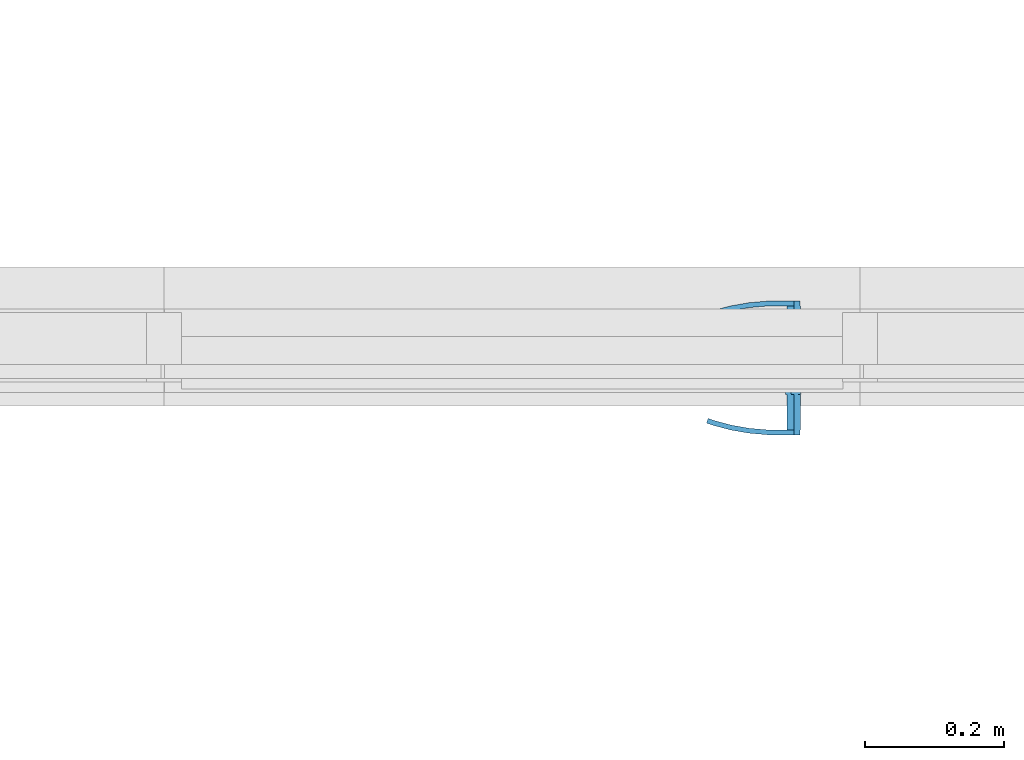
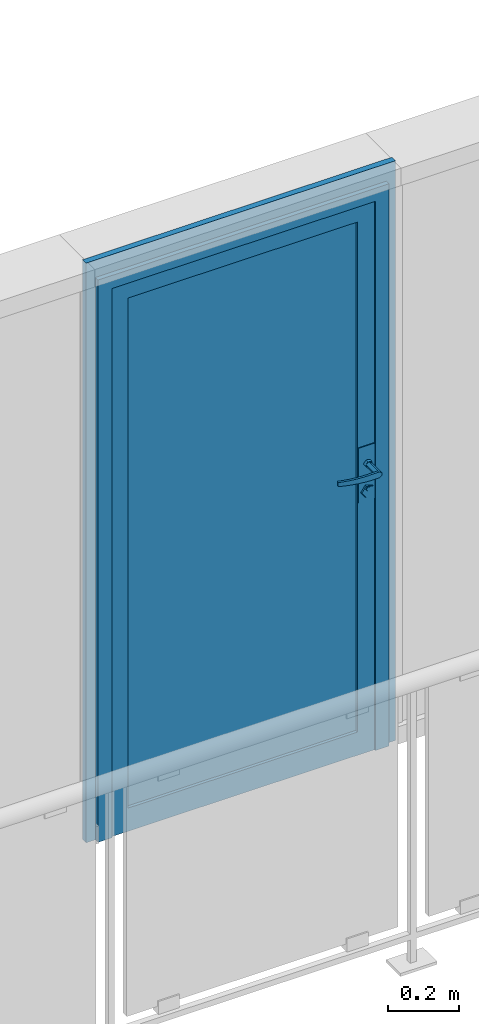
# One storey, part 7 of 7: 1 plate, 1 element without a shape of its own.
"""IFC4 building model written with IfcOpenShell, lengths in millimetres."""

import ifcopenshell
import ifcopenshell.guid

model = None  # the IFC model being written
_history = None  # IfcOwnerHistory: only IFC2X3 demands one
_inside = {}  # id of a spatial element -> (the spatial element, [elements in it])
_under = {}  # id of a project, library or spatial element -> (it, [spatial elements below it])
_declared = {}  # id of a project -> (the project, [libraries it declares])
_typed = {}  # id of a type object -> (the type object, [elements of that type])
_made_of = {}  # id of a material, layer set ... -> (it, [elements and type objects made of it])


def new_model(schema):
    """Start an empty IFC model of exactly this schema.

    Asked for "IFC4X3", IfcOpenShell would pick the latest addendum, in which some entities
    have other attributes; the version numbers below select the first issue.
    IFC2X3 requires an IfcOwnerHistory on every rooted entity: one is made here for all.
    """
    global model, _history
    if schema == "IFC4X3":
        model = ifcopenshell.file(schema_version=(4, 3, 0, 0))
    else:
        model = ifcopenshell.file(schema=schema)
    _inside.clear()
    _under.clear()
    _declared.clear()
    _typed.clear()
    _made_of.clear()
    _history = None
    if model.schema == "IFC2X3":
        org = make("IfcOrganization", Name="unknown")
        user = make(
            "IfcPersonAndOrganization",
            ThePerson=make("IfcPerson", FamilyName="unknown"),
            TheOrganization=org,
        )
        app = make(
            "IfcApplication",
            ApplicationDeveloper=org,
            Version="unknown",
            ApplicationFullName="unknown",
            ApplicationIdentifier="unknown",
        )
        _history = make(
            "IfcOwnerHistory",
            OwningUser=user,
            OwningApplication=app,
            ChangeAction="ADDED",
            CreationDate=0,
        )
    return model


def make(cls, **values):
    """One entity of the class cls with the attributes given. An attribute that is None is left unset."""
    return model.create_entity(
        cls, **{name: value for name, value in values.items() if value is not None}
    )


def entity(cls, *values):
    """Any entity or typed value of the class cls, its attributes in the order of the schema. None: left unset."""
    e = model.create_entity(cls)
    for i, value in enumerate(values):
        if value is not None:
            e[i] = value
    return e


def rooted(cls, **values):
    """An entity with a GlobalId (a new one), such as an element, a storey or a relation."""
    return make(cls, GlobalId=ifcopenshell.guid.new(), OwnerHistory=_history, **values)


def si_unit(unit_type, name, prefix=None):
    """IfcSIUnit, for example si_unit("LENGTHUNIT", "METRE", prefix="MILLI")."""
    return make("IfcSIUnit", UnitType=unit_type, Prefix=prefix, Name=name)


def converted_unit(unit_type, name, factor, base, dimensions=None, offset=None):
    """IfcConversionBasedUnit, such as the inch: factor (a typed value) times the base unit."""
    return make(
        "IfcConversionBasedUnit"
        if offset is None
        else "IfcConversionBasedUnitWithOffset",
        ConversionOffset=offset,
        Dimensions=None
        if dimensions is None
        else entity("IfcDimensionalExponents", *dimensions),
        UnitType=unit_type,
        Name=name,
        ConversionFactor=make(
            "IfcMeasureWithUnit", ValueComponent=factor, UnitComponent=base
        ),
    )


def derived_unit(unit_type, elements):
    """IfcDerivedUnit: a product of units, each with its exponent."""
    return make(
        "IfcDerivedUnit",
        Elements=[
            make("IfcDerivedUnitElement", Unit=unit, Exponent=power)
            for unit, power in elements
        ],
        UnitType=unit_type,
    )


def assignment(units):
    """IfcUnitAssignment: the units of a project."""
    return None if units is None else make("IfcUnitAssignment", Units=units)


def point(xyz):
    """IfcCartesianPoint."""
    return None if xyz is None else make("IfcCartesianPoint", Coordinates=xyz)


def direction(xyz):
    """IfcDirection."""
    return None if xyz is None else make("IfcDirection", DirectionRatios=xyz)


def frame(location, z_axis=None, x_axis=None):
    """IfcAxis2Placement3D, a coordinate frame: its origin and axes. An axis left out is left unset."""
    return make(
        "IfcAxis2Placement3D",
        Location=point(location),
        Axis=direction(z_axis),
        RefDirection=direction(x_axis),
    )


def origin_with_axes():
    """The frame at (0, 0, 0) with the z axis (0, 0, 1) and the x axis (1, 0, 0) written out."""
    return frame((0.0, 0.0, 0.0), z_axis=(0.0, 0.0, 1.0), x_axis=(1.0, 0.0, 0.0))


def place(relative_to, where):
    """IfcLocalPlacement: puts the frame where relative to a parent placement (None: the world)."""
    return make(
        "IfcLocalPlacement", PlacementRelTo=relative_to, RelativePlacement=where
    )


def context(
    kind, dimensions, precision=None, world=None, true_north=None, identifier=None
):
    """IfcGeometricRepresentationContext, for example the 3D "Model" context."""
    return make(
        "IfcGeometricRepresentationContext",
        ContextIdentifier=identifier,
        ContextType=kind,
        CoordinateSpaceDimension=dimensions,
        Precision=precision,
        WorldCoordinateSystem=world,
        TrueNorth=true_north,
    )


def subcontext(parent, identifier, kind, view, scale=None):
    """IfcGeometricRepresentationSubContext, for example "Body" below "Model"."""
    return make(
        "IfcGeometricRepresentationSubContext",
        ContextIdentifier=identifier,
        ContextType=kind,
        ParentContext=parent,
        TargetScale=scale,
        TargetView=view,
    )


def project(units=None, contexts=None):
    """IfcProject with its units and contexts."""
    return rooted(
        "IfcProject",
        Name="project",
        RepresentationContexts=contexts,
        UnitsInContext=assignment(units),
    )


def spatial(cls, under=None, at=None, **own):
    """A site, building, storey or space (cls), placed at a placement, below another one or the project."""
    s = rooted(cls, ObjectPlacement=at, **own)
    if under is not None:
        _under.setdefault(under.id(), (under, []))[1].append(s)
    return s


def point_list(points):
    """IfcCartesianPointList2D or 3D."""
    cls = (
        "IfcCartesianPointList2D" if len(points[0]) == 2 else "IfcCartesianPointList3D"
    )
    return make(cls, CoordList=points)


def polygons(points, faces, closed=None, point_numbers=None):
    """IfcPolygonalFaceSet: a face is its outer loop, then its inner loops; points numbered from 1."""
    made = []
    for loops in faces:
        if len(loops) == 1:
            made.append(make("IfcIndexedPolygonalFace", CoordIndex=loops[0]))
        else:
            made.append(
                make(
                    "IfcIndexedPolygonalFaceWithVoids",
                    CoordIndex=loops[0],
                    InnerCoordIndices=loops[1:],
                )
            )
    return make(
        "IfcPolygonalFaceSet",
        Coordinates=point_list(points),
        Closed=closed,
        Faces=made,
        PnIndex=point_numbers,
    )


def shape(context_of_items, identifier, shape_type, items):
    """IfcShapeRepresentation: the items that make up one representation, for example the "Body"."""
    return make(
        "IfcShapeRepresentation",
        ContextOfItems=context_of_items,
        RepresentationIdentifier=identifier,
        RepresentationType=shape_type,
        Items=items,
    )


def material(Name=None, Category=None):
    """IfcMaterial."""
    return make("IfcMaterial", Name=Name, Category=Category)


def constituent(of_material, Name=None, Category=None, fraction=None):
    """IfcMaterialConstituent: one of the materials an element consists of."""
    return make(
        "IfcMaterialConstituent",
        Name=Name,
        Material=of_material,
        Fraction=fraction,
        Category=Category,
    )


def constituent_set(constituents=None, Name=None):
    """IfcMaterialConstituentSet."""
    return make(
        "IfcMaterialConstituentSet", Name=Name, MaterialConstituents=constituents
    )


def made_of(thing, what):
    """Note that an element or type object is made of a material, layer set ...; save() writes the relation."""
    if what is not None:
        _made_of.setdefault(what.id(), (what, []))[1].append(thing)
    return thing


def type_object(cls, material=None, **own):
    """A type object (cls), such as IfcWallType, which elements share."""
    return made_of(rooted(cls, **own), material)


def element(
    cls,
    number,
    at=None,
    inside=None,
    cuts=None,
    type_object=None,
    material=None,
    context=None,
    identifier="Body",
    shape_type=None,
    held_by="IfcProductDefinitionShape",
    body=None,
    shapes=None,
    **own,
):
    """One element of the class cls, such as IfcWall. Its Tag is "e" and its number.

    at: its placement. inside: the storey or other place that contains it. cuts: it is an
    opening in that element (IfcRelVoidsElement). A single representation is given by context,
    identifier, shape_type and body (its items); several are given by shapes. held_by: the class
    of the entity that holds the representations. save() writes the other relations.
    """
    e = rooted(cls, Tag="e%d" % number, ObjectPlacement=at, **own)
    if body is not None:
        shapes = [shape(context, identifier, shape_type, body)]
    if shapes is not None:
        e.Representation = make(held_by, Representations=shapes)
    if inside is not None:
        _inside.setdefault(inside.id(), (inside, []))[1].append(e)
    if cuts is not None:
        rooted(
            "IfcRelVoidsElement", RelatingBuildingElement=cuts, RelatedOpeningElement=e
        )
    if type_object is not None:
        _typed.setdefault(type_object.id(), (type_object, []))[1].append(e)
    return made_of(e, material)


def aggregate(whole, parts):
    """IfcRelAggregates: a whole, such as a stair, and the parts it consists of."""
    return rooted("IfcRelAggregates", RelatingObject=whole, RelatedObjects=parts)


def save(model, path):
    """Write the relations noted so far, then the file.

    IfcRelAggregates (storeys below a building ...), IfcRelContainedInSpatialStructure (elements
    in a storey), IfcRelDefinesByType, IfcRelAssociatesMaterial and IfcRelDeclares: one each for
    every whole, place, type object, material and project.
    """
    for whole, parts in _under.values():
        aggregate(whole, parts)
    for where, things in _inside.values():
        rooted(
            "IfcRelContainedInSpatialStructure",
            RelatedElements=things,
            RelatingStructure=where,
        )
    for kind, things in _typed.values():
        rooted("IfcRelDefinesByType", RelatedObjects=things, RelatingType=kind)
    for what, things in _made_of.values():
        rooted("IfcRelAssociatesMaterial", RelatedObjects=things, RelatingMaterial=what)
    for by, libraries in _declared.values():
        rooted("IfcRelDeclares", RelatingContext=by, RelatedDefinitions=libraries)
    model.write(path)


model = new_model("IFC4")

# Units and contexts
model_context = context("Model", 3, precision=0.01, world=origin_with_axes(), true_north=direction((0.0, 1.0)))
body_context = subcontext(model_context, "Body", "Model", "MODEL_VIEW")
ifc_project = project(units=[si_unit("LENGTHUNIT", "METRE", prefix="MILLI"), si_unit("AREAUNIT", "SQUARE_METRE"), si_unit("VOLUMEUNIT", "CUBIC_METRE"), converted_unit("PLANEANGLEUNIT", "DEGREE", entity("IfcPlaneAngleMeasure", 0.0174532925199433), si_unit("PLANEANGLEUNIT", "RADIAN"), dimensions=[0, 0, 0, 0, 0, 0, 0]), converted_unit("TIMEUNIT", "Year", entity("IfcTimeMeasure", 31557600.0), si_unit("TIMEUNIT", "SECOND"), dimensions=[0, 0, 1, 0, 0, 0, 0]), si_unit("MASSUNIT", "GRAM", prefix="KILO"), si_unit("THERMODYNAMICTEMPERATUREUNIT", "DEGREE_CELSIUS"), si_unit("LUMINOUSINTENSITYUNIT", "LUMEN"), si_unit("ENERGYUNIT", "JOULE", prefix="MEGA"), derived_unit("THERMALCONDUCTANCEUNIT", [(si_unit("POWERUNIT", "WATT"), 1), (si_unit("LENGTHUNIT", "METRE"), -1), (si_unit("THERMODYNAMICTEMPERATUREUNIT", "KELVIN"), -1)]), derived_unit("SPECIFICHEATCAPACITYUNIT", [(si_unit("ENERGYUNIT", "JOULE"), 1), (si_unit("MASSUNIT", "GRAM", prefix="KILO"), -1), (si_unit("THERMODYNAMICTEMPERATUREUNIT", "KELVIN"), -1)]), derived_unit("MASSDENSITYUNIT", [(si_unit("MASSUNIT", "GRAM", prefix="KILO"), 1), (si_unit("VOLUMEUNIT", "CUBIC_METRE"), -1)])], contexts=[model_context])

# Site, building, storey
site_placement = place(None, origin_with_axes())
site = spatial("IfcSite", under=ifc_project, at=site_placement, Name="Exteriér", CompositionType="ELEMENT")
building_placement = place(site_placement, origin_with_axes())
building = spatial("IfcBuilding", under=site, at=building_placement, Name="Univerzitní lezecké centrum", CompositionType="ELEMENT")
storey_placement = place(building_placement, frame((0.0, 0.0, 6400.0), z_axis=(0.0, 0.0, 1.0), x_axis=(1.0, 0.0, 0.0)))
storey = spatial("IfcBuildingStorey", under=building, at=storey_placement, Name="3.NP", CompositionType="ELEMENT", Elevation=6400.0)

# Curtain wall, plate
curtain_wall_type = type_object("IfcCurtainWallType", Name="Typ lehkého obvodového pláště", PredefinedType="NOTDEFINED")
curtain_wall_placement = place(storey_placement, frame((1074.697880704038, -270.0000000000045, 0.0), z_axis=(0.0, 0.0, 1.0), x_axis=(1.0, 0.0, 0.0)))
curtain_wall = element("IfcCurtainWall", 1, at=curtain_wall_placement, inside=storey, type_object=curtain_wall_type, Name="LOP04", PredefinedType="NOTDEFINED")
ifc_material_1 = material(Name="Hliník")
ifc_constituent_1 = constituent(ifc_material_1, Name="Hliník")
ifc_material_2 = material(Name="Sklo")
ifc_constituent_2 = constituent(ifc_material_2, Name="Sklo")
ifc_material_3 = material(Name="Ocel - nerez")
ifc_constituent_3 = constituent(ifc_material_3, Name="Ocel - nerez")
ifc_constituent_set = constituent_set(constituents=[ifc_constituent_1, ifc_constituent_2, ifc_constituent_3])
plate_type = type_object("IfcPlateType", Name="5 x 30 x 20", PredefinedType="CURTAIN_PANEL")
plate_placement = place(curtain_wall_placement, frame((1375.083313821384, 0.0, 999.999989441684), z_axis=(0.0, 0.0, 1.0), x_axis=(-1.0, 0.0, 0.0)))
plate = element("IfcPlate", 2, at=plate_placement, type_object=plate_type, material=ifc_constituent_set, Name="PD010", PredefinedType="CURTAIN_PANEL", context=body_context, shape_type="Tessellation", body=[
    polygons([(-474.9999897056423, 20.00000000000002, -999.9999894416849), (-474.9999897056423, 19.99999999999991, 939.9999900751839), (-474.9999897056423, 24.99999999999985, 939.9999900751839), (-474.9999897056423, 25.00000000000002, -999.9999894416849), (-429.9999897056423, 20.00000000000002, -999.9999894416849), (-429.9999897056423, 19.99999999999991, 894.999990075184), (-429.9999897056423, 24.99999999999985, 894.999990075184), (-429.9999897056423, 25.00000000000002, -999.9999894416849)], [[[1, 2, 3, 4]], [[1, 5, 6, 2]], [[2, 6, 7, 3]], [[4, 3, 7, 8]], [[5, 1, 4, 8]], [[6, 5, 8, 7]]], closed=True),
    polygons([(475.0000002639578, 19.99999999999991, 939.9999900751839), (430.0000002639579, 19.99999999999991, 894.999990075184), (430.0000002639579, 24.99999999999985, 894.999990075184), (475.0000002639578, 24.99999999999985, 939.9999900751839), (-474.9999897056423, 19.99999999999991, 939.9999900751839), (-429.9999897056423, 19.99999999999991, 894.999990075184), (-429.9999897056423, 24.99999999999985, 894.999990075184), (-474.9999897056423, 24.99999999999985, 939.9999900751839)], [[[1, 2, 3, 4]], [[1, 5, 6, 2]], [[2, 6, 7, 3]], [[4, 3, 7, 8]], [[5, 1, 4, 8]], [[6, 5, 8, 7]]], closed=True),
    polygons([(475.0000002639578, 20.00000000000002, -999.9999894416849), (430.0000002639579, 20.00000000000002, -999.9999894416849), (430.0000002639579, 25.00000000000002, -999.9999894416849), (475.0000002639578, 25.00000000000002, -999.9999894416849), (475.0000002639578, 19.99999999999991, 939.9999900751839), (430.0000002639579, 19.99999999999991, 894.999990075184), (430.0000002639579, 24.99999999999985, 894.999990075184), (475.0000002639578, 24.99999999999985, 939.9999900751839)], [[[1, 2, 3, 4]], [[1, 5, 6, 2]], [[2, 6, 7, 3]], [[4, 3, 7, 8]], [[5, 1, 4, 8]], [[6, 5, 8, 7]]], closed=True),
    polygons([(-474.9999897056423, -30.0, -999.9999894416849), (-474.9999897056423, -30.00000000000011, 939.9999900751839), (-474.9999897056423, 19.99999999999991, 939.9999900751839), (-474.9999897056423, 20.00000000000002, -999.9999894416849), (-454.9999897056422, -30.0, -999.9999894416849), (-454.9999897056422, -30.00000000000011, 919.9999900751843), (-454.9999897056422, 19.99999999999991, 919.9999900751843), (-454.9999897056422, 20.00000000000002, -999.9999894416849)], [[[1, 2, 3, 4]], [[1, 5, 6, 2]], [[2, 6, 7, 3]], [[4, 3, 7, 8]], [[5, 1, 4, 8]], [[6, 5, 8, 7]]], closed=True),
    polygons([(475.0000002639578, -30.00000000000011, 939.9999900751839), (455.0000002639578, -30.00000000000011, 919.9999900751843), (455.0000002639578, 19.99999999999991, 919.9999900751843), (475.0000002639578, 19.99999999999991, 939.9999900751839), (-474.9999897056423, -30.00000000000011, 939.9999900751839), (-454.9999897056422, -30.00000000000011, 919.9999900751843), (-454.9999897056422, 19.99999999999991, 919.9999900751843), (-474.9999897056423, 19.99999999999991, 939.9999900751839)], [[[1, 2, 3, 4]], [[1, 5, 6, 2]], [[2, 6, 7, 3]], [[4, 3, 7, 8]], [[5, 1, 4, 8]], [[6, 5, 8, 7]]], closed=True),
    polygons([(475.0000002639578, -30.0, -999.9999894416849), (455.0000002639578, -30.0, -999.9999894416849), (455.0000002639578, 20.00000000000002, -999.9999894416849), (475.0000002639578, 20.00000000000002, -999.9999894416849), (475.0000002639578, -30.00000000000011, 939.9999900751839), (455.0000002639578, -30.00000000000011, 919.9999900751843), (455.0000002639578, 19.99999999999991, 919.9999900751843), (475.0000002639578, 19.99999999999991, 939.9999900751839)], [[[1, 2, 3, 4]], [[1, 5, 6, 2]], [[2, 6, 7, 3]], [[4, 3, 7, 8]], [[5, 1, 4, 8]], [[6, 5, 8, 7]]], closed=True),
    polygons([(-504.9999893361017, -10.00000000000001, -999.9999894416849), (-504.9999893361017, -10.00000000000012, 999.999989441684), (-504.9999893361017, 9.999999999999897, 999.999989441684), (-504.9999893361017, 10.00000000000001, -999.9999894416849), (-474.9999897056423, -10.00000000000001, -999.9999894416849), (-474.9999897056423, -10.00000000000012, 939.9999900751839), (-474.9999897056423, 9.999999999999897, 939.9999900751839), (-474.9999897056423, 10.00000000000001, -999.9999894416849)], [[[1, 2, 3, 4]], [[1, 5, 6, 2]], [[2, 6, 7, 3]], [[4, 3, 7, 8]], [[5, 1, 4, 8]], [[6, 5, 8, 7]]], closed=True),
    polygons([(-504.9999893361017, -10.00000000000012, 999.999989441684), (504.9999999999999, -10.00000000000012, 999.999989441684), (504.9999999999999, 9.999999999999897, 999.999989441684), (-504.9999893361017, 9.999999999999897, 999.999989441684), (-474.9999897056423, -10.00000000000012, 939.9999900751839), (475.0000002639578, -10.00000000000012, 939.9999900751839), (475.0000002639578, 9.999999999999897, 939.9999900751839), (-474.9999897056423, 9.999999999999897, 939.9999900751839)], [[[1, 2, 3, 4]], [[1, 5, 6, 2]], [[2, 6, 7, 3]], [[4, 3, 7, 8]], [[5, 1, 4, 8]], [[6, 5, 8, 7]]], closed=True),
    polygons([(504.9999999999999, -10.00000000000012, 999.999989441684), (504.9999999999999, -10.00000000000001, -999.9999894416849), (504.9999999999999, 10.00000000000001, -999.9999894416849), (504.9999999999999, 9.999999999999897, 999.999989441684), (475.0000002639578, -10.00000000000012, 939.9999900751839), (475.0000002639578, -10.00000000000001, -999.9999894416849), (475.0000002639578, 10.00000000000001, -999.9999894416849), (475.0000002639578, 9.999999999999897, 939.9999900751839)], [[[1, 2, 3, 4]], [[1, 5, 6, 2]], [[2, 6, 7, 3]], [[4, 3, 7, 8]], [[5, 1, 4, 8]], [[6, 5, 8, 7]]], closed=True),
    polygons([(375.0000002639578, 19.99999999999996, -919.9999894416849), (375.0000002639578, -30.00000000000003, -919.9999894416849), (375.0000002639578, -30.00000000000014, 839.9999900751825), (375.0000002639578, 19.99999999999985, 839.9999900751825), (455.0000002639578, 19.99999999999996, -999.9999894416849), (455.0000002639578, -30.00000000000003, -999.9999894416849), (455.0000002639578, -30.00000000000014, 919.9999900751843), (455.0000002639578, 19.99999999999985, 919.9999900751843)], [[[1, 2, 3, 4]], [[5, 6, 2, 1]], [[2, 6, 7, 3]], [[4, 3, 7, 8]], [[1, 4, 8, 5]], [[8, 7, 6, 5]]], closed=True),
    polygons([(-454.9999897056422, 20.00000000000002, -999.9999894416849), (-454.9999897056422, -29.99999999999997, -999.9999894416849), (-454.9999897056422, -30.00000000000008, 919.9999900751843), (-454.9999897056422, 19.99999999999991, 919.9999900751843), (-374.9999897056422, 20.00000000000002, -919.9999894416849), (-374.9999897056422, -29.99999999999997, -919.9999894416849), (-374.9999897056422, -30.00000000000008, 839.9999900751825), (-374.9999897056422, 19.99999999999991, 839.9999900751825)], [[[1, 2, 3, 4]], [[5, 6, 2, 1]], [[2, 6, 7, 3]], [[4, 3, 7, 8]], [[1, 4, 8, 5]], [[8, 7, 6, 5]]], closed=True),
    polygons([(-454.9999897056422, 20.00000000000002, -999.9999894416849), (-454.9999897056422, -29.99999999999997, -999.9999894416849), (-374.9999897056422, -29.99999999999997, -919.9999894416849), (-374.9999897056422, 20.00000000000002, -919.9999894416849), (455.0000002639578, 19.99999999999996, -999.9999894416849), (455.0000002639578, -30.00000000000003, -999.9999894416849), (375.0000002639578, -30.00000000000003, -919.9999894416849), (375.0000002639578, 19.99999999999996, -919.9999894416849)], [[[1, 2, 3, 4]], [[5, 6, 2, 1]], [[2, 6, 7, 3]], [[4, 3, 7, 8]], [[1, 4, 8, 5]], [[8, 7, 6, 5]]], closed=True),
    polygons([(455.0000002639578, 19.99999999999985, 919.9999900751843), (455.0000002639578, -30.00000000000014, 919.9999900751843), (375.0000002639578, -30.00000000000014, 839.9999900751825), (375.0000002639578, 19.99999999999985, 839.9999900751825), (-454.9999897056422, 19.99999999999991, 919.9999900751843), (-454.9999897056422, -30.00000000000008, 919.9999900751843), (-374.9999897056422, -30.00000000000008, 839.9999900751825), (-374.9999897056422, 19.99999999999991, 839.9999900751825)], [[[1, 2, 3, 4]], [[5, 6, 2, 1]], [[2, 6, 7, 3]], [[4, 3, 7, 8]], [[1, 4, 8, 5]], [[8, 7, 6, 5]]], closed=True),
    polygons([(375.0000002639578, 10.00000000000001, -919.9999894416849), (375.0000002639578, -6.000000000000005, -919.9999894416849), (-374.9999897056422, -6.000000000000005, -919.9999894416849), (-374.9999897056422, 10.00000000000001, -919.9999894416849), (375.0000002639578, 9.999999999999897, 839.9999900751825), (375.0000002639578, -6.000000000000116, 839.9999900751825), (-374.9999897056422, -6.000000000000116, 839.9999900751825), (-374.9999897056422, 9.999999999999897, 839.9999900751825)], [[[1, 2, 3, 4]], [[5, 6, 2, 1]], [[2, 6, 7, 3]], [[4, 3, 7, 8]], [[1, 4, 8, 5]], [[8, 7, 6, 5]]], closed=True),
    polygons([(-433.4999897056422, -30.00000000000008, 60.00001055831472), (-433.4999897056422, -33.00000000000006, 60.00001055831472), (-376.4999897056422, -33.00000000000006, 60.00001055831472), (-376.4999897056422, -30.00000000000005, 60.00001055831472), (-433.4999897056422, -30.00000000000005, -129.9999894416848), (-433.4999897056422, -33.00000000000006, -129.9999894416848), (-376.4999897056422, -33.00000000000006, -129.9999894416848), (-376.4999897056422, -30.00000000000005, -129.9999894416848)], [[[1, 2, 3, 4]], [[5, 6, 2, 1]], [[2, 6, 7, 3]], [[4, 3, 7, 8]], [[1, 4, 8, 5]], [[8, 7, 6, 5]]], closed=True),
    polygons([(-404.999989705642, -94.00000000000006, -9.999989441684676), (-404.999989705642, -101.0000000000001, -9.999989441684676), (-413.6602437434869, -101.0000000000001, -4.999989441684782), (-413.6602437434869, -94.00000000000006, -4.999989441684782), (-379.9999897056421, -94.00000000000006, -9.999989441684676), (-379.9999897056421, -101.0, -9.999989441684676), (-379.9999897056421, -101.0, 10.0000105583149), (-404.999989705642, -101.0000000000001, 10.0000105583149), (-413.6602437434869, -101.0000000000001, 5.000010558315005), (-413.6602437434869, -94.00000000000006, 5.000010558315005), (-404.999989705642, -94.00000000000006, 10.0000105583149), (-379.9999897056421, -94.00000000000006, 10.0000105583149)], [[[1, 2, 3, 4]], [[5, 6, 2, 1]], [[2, 6, 7, 8, 9, 3]], [[4, 3, 9, 10]], [[1, 4, 10, 11, 12, 5]], [[11, 8, 7, 12]], [[10, 9, 8, 11]]], closed=False),
    polygons([(-379.9999897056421, -94.00000000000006, 10.0000105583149), (-366.5960802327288, -101.0, 9.607311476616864), (-366.9017068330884, -94.00000000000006, 9.607311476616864), (-379.9999897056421, -101.0000000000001, 10.0000105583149), (-339.890273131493, -98.66354462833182, 8.82191331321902), (-366.9017068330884, -94.00000000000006, -9.607290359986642), (-379.9999897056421, -94.00000000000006, -9.999989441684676), (-379.9999897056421, -101.0000000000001, -9.999989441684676), (-366.5960802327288, -101.0, -9.607290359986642), (-339.890273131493, -98.66354462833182, -8.821892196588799), (-340.8048269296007, -91.71681885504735, 8.82191331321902), (-340.8048269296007, -91.71681885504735, -8.821892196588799), (-313.4897251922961, -94.00841572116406, -8.036494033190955), (-313.4897251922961, -94.00841572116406, 8.036515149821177), (-315.0062458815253, -87.16783295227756, 8.036515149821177), (-315.0062458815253, -87.16783295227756, -8.036494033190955), (-287.5953605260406, -87.070041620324, -7.251095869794), (-287.5953605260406, -87.070041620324, 7.251116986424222), (-289.7023064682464, -80.38766282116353, 7.251116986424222), (-289.7023064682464, -80.38766282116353, -7.251095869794), (-279.5387853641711, -84.13768807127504, -6.999989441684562), (-279.5387853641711, -84.13768807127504, 7.000010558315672), (-281.8294317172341, -77.52217075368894, 7.000010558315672), (-281.8294317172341, -77.52217075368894, -6.999989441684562)], [[[1, 2, 3]], [[1, 4, 2]], [[3, 2, 5]], [[1, 3, 6, 7]], [[4, 8, 9, 2]], [[2, 9, 10, 5]], [[3, 5, 11]], [[3, 11, 12, 6]], [[6, 8, 7]], [[6, 9, 8]], [[12, 10, 9]], [[5, 10, 13, 14]], [[11, 5, 14]], [[11, 15, 16, 12]], [[12, 9, 6]], [[16, 10, 12]], [[16, 13, 10]], [[14, 13, 17, 18]], [[11, 14, 15]], [[15, 19, 20, 16]], [[20, 13, 16]], [[20, 17, 13]], [[18, 17, 21, 22]], [[15, 14, 18]], [[15, 18, 19]], [[19, 23, 24, 20]], [[24, 17, 20]], [[24, 21, 17]], [[23, 22, 21, 24]], [[19, 18, 22]], [[19, 22, 23]]], closed=False),
    polygons([(-401.291785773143, -43.00000000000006, -11.41266763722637), (-400.9827687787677, -33.00000000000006, -12.36372415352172), (-391.9999897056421, -33.00000000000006, 1.055831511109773e-05), (-392.9999897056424, -43.00000000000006, 1.055831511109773e-05), (-414.7081936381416, -43.00000000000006, -7.053412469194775), (-415.5172106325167, -33.00000000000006, -7.641197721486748), (-415.5172106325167, -33.00000000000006, 7.64121883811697), (-400.9827687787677, -33.00000000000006, 12.36374527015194), (-401.291785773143, -43.00000000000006, 11.41268875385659), (-414.7081936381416, -43.00000000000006, 7.053433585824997)], [[[1, 2, 3, 4]], [[5, 6, 2, 1]], [[3, 2, 6, 7, 8]], [[4, 3, 8, 9]], [[4, 9, 10, 5, 1]], [[10, 7, 6, 5]], [[9, 8, 7, 10]]], closed=True),
    polygons([(-398.8196498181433, -37.00000000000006, -114.021119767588), (-398.2016158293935, -33.00000000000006, -115.9232328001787), (-382.9999897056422, -33.00000000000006, -94.99998944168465), (-384.9999897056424, -37.00000000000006, -94.99998944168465), (-421.1803295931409, -37.00000000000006, -106.7556944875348), (-422.7983635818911, -33.00000000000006, -107.9312649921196), (-422.7983635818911, -33.00000000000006, -82.06871389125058), (-398.2016158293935, -33.00000000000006, -74.07674608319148), (-398.8196498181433, -37.00000000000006, -75.97885911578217), (-421.1803295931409, -37.00000000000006, -83.24428439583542)], [[[1, 2, 3, 4]], [[5, 6, 2, 1]], [[3, 2, 6, 7, 8]], [[4, 3, 8, 9]], [[4, 9, 10, 5, 1]], [[10, 7, 6, 5]], [[9, 8, 7, 10]]], closed=True),
    polygons([(-402.8368707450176, -39.00000000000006, -92.65738505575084), (-402.5278537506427, -37.00000000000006, -93.60844157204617), (-396.999989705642, -37.00000000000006, -85.99998944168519), (-397.9999897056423, -39.00000000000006, -85.99998944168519), (-410.6631086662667, -39.00000000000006, -90.11448620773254), (-411.4721256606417, -37.00000000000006, -90.70227146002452), (-411.4721256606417, -37.00000000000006, -81.29770742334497), (-402.5278537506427, -37.00000000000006, -78.3915373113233), (-402.8368707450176, -39.00000000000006, -79.34259382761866), (-410.6631086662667, -39.00000000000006, -81.88549267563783)], [[[1, 2, 3, 4]], [[5, 6, 2, 1]], [[3, 2, 6, 7, 8]], [[4, 3, 8, 9]], [[4, 9, 10, 5, 1]], [[10, 7, 6, 5]], [[9, 8, 7, 10]]], closed=True),
    polygons([(-404.999989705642, -43.00000000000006, 10.0000105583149), (-404.999989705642, -94.00000000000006, 10.0000105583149), (-395.4894245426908, -94.00000000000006, 3.090180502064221), (-395.4894245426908, -43.00000000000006, 3.090180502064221), (-414.5105548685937, -43.00000000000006, 3.090180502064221), (-414.5105548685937, -94.00000000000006, 3.090180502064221), (-410.877842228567, -94.00000000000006, -8.09015938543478), (-399.1221371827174, -94.00000000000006, -8.09015938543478), (-399.1221371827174, -43.00000000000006, -8.09015938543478), (-410.877842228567, -43.00000000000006, -8.09015938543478)], [[[1, 2, 3, 4]], [[5, 6, 2, 1]], [[2, 6, 7, 8, 3]], [[4, 3, 8, 9]], [[1, 4, 9, 10, 5]], [[10, 7, 6, 5]], [[9, 8, 7, 10]]], closed=True),
    polygons([(-433.4999897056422, 19.99999999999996, 60.00001055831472), (-376.4999897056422, 19.99999999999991, 60.00001055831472), (-376.4999897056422, 22.99999999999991, 60.00001055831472), (-433.4999897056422, 22.99999999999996, 60.00001055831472), (-433.4999897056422, 19.99999999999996, -129.9999894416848), (-376.4999897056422, 19.99999999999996, -129.9999894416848), (-376.4999897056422, 22.99999999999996, -129.9999894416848), (-433.4999897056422, 22.99999999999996, -129.9999894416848)], [[[1, 2, 3, 4]], [[1, 5, 6, 2]], [[2, 6, 7, 3]], [[4, 3, 7, 8]], [[5, 1, 4, 8]], [[6, 5, 8, 7]]], closed=True),
    polygons([(-404.999989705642, 83.99999999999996, -9.999989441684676), (-413.6602437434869, 83.99999999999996, -4.999989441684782), (-413.6602437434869, 90.99999999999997, -4.999989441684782), (-404.999989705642, 90.99999999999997, -9.999989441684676), (-379.9999897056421, 83.99999999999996, -9.999989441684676), (-379.9999897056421, 83.99999999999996, 10.0000105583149), (-404.999989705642, 83.99999999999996, 10.0000105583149), (-413.6602437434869, 83.99999999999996, 5.000010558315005), (-413.6602437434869, 90.99999999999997, 5.000010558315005), (-404.999989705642, 90.99999999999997, 10.0000105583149), (-379.9999897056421, 90.99999999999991, 10.0000105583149), (-379.9999897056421, 90.99999999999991, -9.999989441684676)], [[[1, 2, 3, 4]], [[1, 5, 6, 7, 8, 2]], [[2, 8, 9, 3]], [[4, 3, 9, 10, 11, 12]], [[5, 1, 4, 12]], [[7, 6, 11, 10]], [[8, 7, 10, 9]]], closed=False),
    polygons([(-379.9999897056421, 83.99999999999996, 10.0000105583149), (-366.9017068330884, 83.99999999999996, 9.607311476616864), (-366.5960802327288, 90.99999999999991, 9.607311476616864), (-379.9999897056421, 83.99999999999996, -9.999989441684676), (-366.9017068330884, 83.99999999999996, -9.607290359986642), (-339.890273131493, 88.6635446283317, 8.82191331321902), (-379.9999897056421, 90.99999999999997, 10.0000105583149), (-379.9999897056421, 90.99999999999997, -9.999989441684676), (-340.8048269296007, 81.71681885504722, -8.821892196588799), (-340.8048269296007, 81.71681885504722, 8.82191331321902), (-339.890273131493, 88.6635446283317, -8.821892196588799), (-366.5960802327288, 90.99999999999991, -9.607290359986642), (-315.0062458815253, 77.16783295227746, -8.036494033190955), (-315.0062458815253, 77.16783295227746, 8.036515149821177), (-313.4897251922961, 84.00841572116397, 8.036515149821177), (-313.4897251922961, 84.00841572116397, -8.036494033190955), (-289.7023064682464, 70.38766282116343, -7.251095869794), (-289.7023064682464, 70.38766282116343, 7.251116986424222), (-287.5953605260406, 77.07004162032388, 7.251116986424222), (-287.5953605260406, 77.07004162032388, -7.251095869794), (-281.8294317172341, 67.52217075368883, -6.999989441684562), (-281.8294317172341, 67.52217075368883, 7.000010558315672), (-279.5387853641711, 74.13768807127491, 7.000010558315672), (-279.5387853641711, 74.13768807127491, -6.999989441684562)], [[[1, 2, 3]], [[1, 4, 5, 2]], [[2, 6, 3]], [[1, 3, 7]], [[5, 4, 8]], [[2, 5, 9, 10]], [[2, 10, 6]], [[3, 6, 11, 12]], [[7, 3, 12, 8]], [[5, 8, 12]], [[9, 5, 12]], [[10, 9, 13, 14]], [[10, 15, 6]], [[6, 15, 16, 11]], [[9, 12, 11]], [[13, 9, 11]], [[14, 13, 17, 18]], [[10, 14, 15]], [[15, 19, 20, 16]], [[13, 11, 16]], [[17, 13, 16]], [[18, 17, 21, 22]], [[14, 18, 19]], [[14, 19, 15]], [[19, 23, 24, 20]], [[17, 16, 20]], [[21, 17, 20]], [[22, 21, 24, 23]], [[18, 22, 23]], [[18, 23, 19]], [[21, 20, 24]]], closed=False),
    polygons([(-401.291785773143, 32.99999999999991, -11.41266763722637), (-392.9999897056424, 32.99999999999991, 1.055831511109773e-05), (-391.9999897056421, 22.99999999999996, 1.055831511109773e-05), (-400.9827687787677, 22.99999999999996, -12.36372415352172), (-414.7081936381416, 32.99999999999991, -7.053412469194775), (-414.7081936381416, 32.99999999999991, 7.053433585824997), (-401.291785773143, 32.99999999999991, 11.41268875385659), (-400.9827687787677, 22.99999999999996, 12.36374527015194), (-415.5172106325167, 22.99999999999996, 7.64121883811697), (-415.5172106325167, 22.99999999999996, -7.641197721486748)], [[[1, 2, 3, 4]], [[2, 1, 5, 6, 7]], [[2, 7, 8, 3]], [[3, 8, 9, 10, 4]], [[5, 1, 4, 10]], [[6, 5, 10, 9]], [[7, 6, 9, 8]]], closed=True),
    polygons([(-398.8196498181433, 26.99999999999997, -114.021119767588), (-384.9999897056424, 26.99999999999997, -94.99998944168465), (-382.9999897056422, 22.99999999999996, -94.99998944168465), (-398.2016158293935, 22.99999999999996, -115.9232328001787), (-421.1803295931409, 26.99999999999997, -106.7556944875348), (-421.1803295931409, 26.99999999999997, -83.24428439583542), (-398.8196498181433, 26.99999999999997, -75.97885911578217), (-398.2016158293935, 22.99999999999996, -74.07674608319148), (-422.7983635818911, 22.99999999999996, -82.06871389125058), (-422.7983635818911, 22.99999999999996, -107.9312649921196)], [[[1, 2, 3, 4]], [[2, 1, 5, 6, 7]], [[2, 7, 8, 3]], [[3, 8, 9, 10, 4]], [[5, 1, 4, 10]], [[6, 5, 10, 9]], [[7, 6, 9, 8]]], closed=True),
    polygons([(-402.8368707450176, 28.99999999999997, -92.65738505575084), (-397.9999897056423, 28.99999999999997, -85.99998944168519), (-396.999989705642, 26.99999999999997, -85.99998944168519), (-402.5278537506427, 26.99999999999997, -93.60844157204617), (-410.6631086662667, 28.99999999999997, -90.11448620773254), (-410.6631086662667, 28.99999999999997, -81.88549267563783), (-402.8368707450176, 28.99999999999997, -79.34259382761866), (-402.5278537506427, 26.99999999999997, -78.3915373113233), (-411.4721256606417, 26.99999999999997, -81.29770742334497), (-411.4721256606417, 26.99999999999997, -90.70227146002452)], [[[1, 2, 3, 4]], [[2, 1, 5, 6, 7]], [[2, 7, 8, 3]], [[3, 8, 9, 10, 4]], [[5, 1, 4, 10]], [[6, 5, 10, 9]], [[7, 6, 9, 8]]], closed=True),
    polygons([(-404.999989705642, 32.99999999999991, 10.0000105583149), (-395.4894245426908, 32.99999999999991, 3.090180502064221), (-395.4894245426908, 83.99999999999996, 3.090180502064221), (-404.999989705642, 83.99999999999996, 10.0000105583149), (-414.5105548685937, 32.99999999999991, 3.090180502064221), (-410.877842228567, 32.99999999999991, -8.09015938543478), (-399.1221371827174, 32.99999999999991, -8.09015938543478), (-399.1221371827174, 83.99999999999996, -8.09015938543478), (-410.877842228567, 83.99999999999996, -8.09015938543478), (-414.5105548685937, 83.99999999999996, 3.090180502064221)], [[[1, 2, 3, 4]], [[1, 5, 6, 7, 2]], [[2, 7, 8, 3]], [[4, 3, 8, 9, 10]], [[5, 1, 4, 10]], [[6, 5, 10, 9]], [[7, 6, 9, 8]]], closed=True),
])
aggregate(curtain_wall, [plate])

save(model, "model.ifc")
